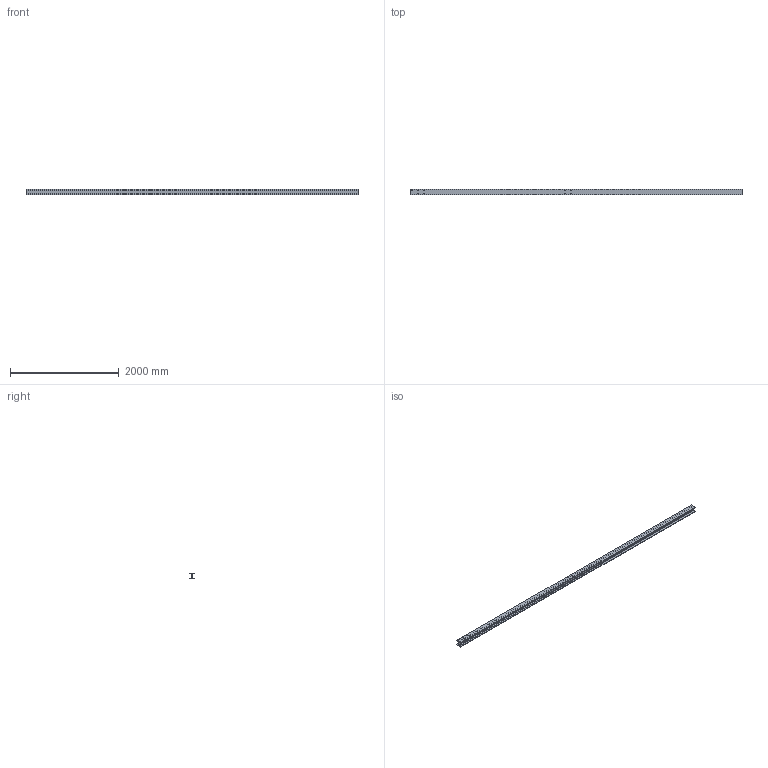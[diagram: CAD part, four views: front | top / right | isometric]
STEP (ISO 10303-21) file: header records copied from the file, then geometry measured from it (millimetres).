
FILE_DESCRIPTION (( 'STEP AP214' ), '1' );
FILE_NAME ('CCJ029-REP.056 - POUTRE SUPERIEUR A1-A3.STEP', '2024-01-31T09:32:05', ( '' ), ( '' ), 'SwSTEP 2.0', 'SolidWorks 2021', '' );
FILE_SCHEMA (( 'AUTOMOTIVE_DESIGN' ));
Length unit declared in the file: millimetre
Products named in the file (1): CCJ029-REP.056 - POUTRE SUPERIEUR A1-A3
Bounding box: 6110 x 100 x 100 mm (x, y, z)
Volume: 15895686.1 mm3; surface area: 3473172.6 mm2
Topology: 1 solids, 1 shells, 74 faces, 201 edges, 134 vertices
Faces by surface type: plane 28, bspline 26, cylinder 20
Entity records: 4067 total; most frequent: CARTESIAN_POINT 2268, ORIENTED_EDGE 402, DIRECTION 287, EDGE_CURVE 201, VERTEX_POINT 134, VECTOR 109, LINE 109, EDGE_LOOP 95
